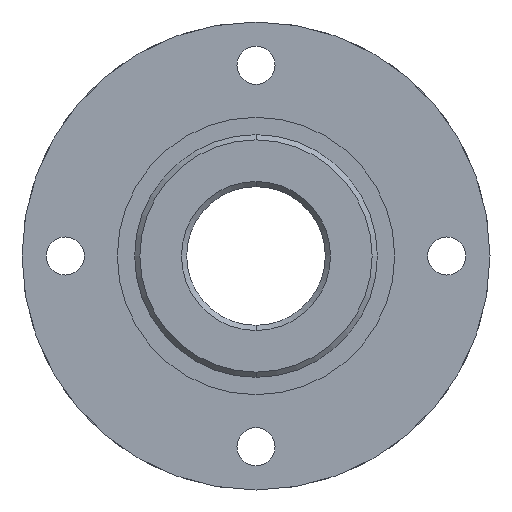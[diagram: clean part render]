
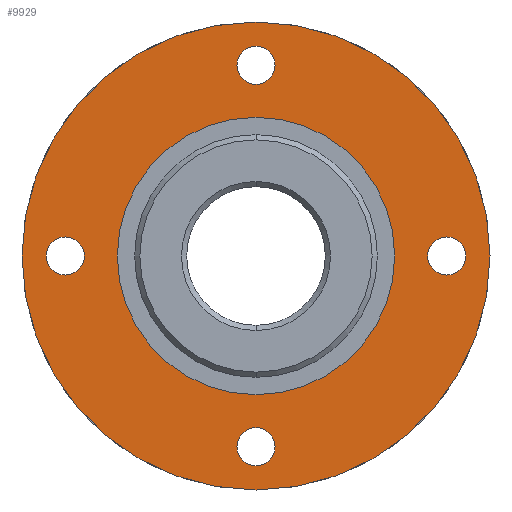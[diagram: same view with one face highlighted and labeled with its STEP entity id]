
A CAD part, front view. The second image highlights one B-rep face of the part: STEP entity #9929.
In plain terms, the highlighted planar face has unit normal (0, -1, 0).
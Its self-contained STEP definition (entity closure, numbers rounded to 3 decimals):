
#10 = ORIENTED_EDGE ( 'NONE', *, *, #7633, .T. ) ;
#106 = CARTESIAN_POINT ( 'NONE',  ( 0., 1.5, 4.5 ) ) ;
#112 = AXIS2_PLACEMENT_3D ( 'NONE', #7404, #9932, #3489 ) ;
#114 = FACE_OUTER_BOUND ( 'NONE', #4012, .T. ) ;
#155 = CIRCLE ( 'NONE', #6322, 1.1 ) ;
#180 = VERTEX_POINT ( 'NONE', #1489 ) ;
#393 = CIRCLE ( 'NONE', #4060, 1.1 ) ;
#414 = DIRECTION ( 'NONE',  ( 0., 1., 0. ) ) ;
#421 = ORIENTED_EDGE ( 'NONE', *, *, #5827, .T. ) ;
#567 = ORIENTED_EDGE ( 'NONE', *, *, #5972, .T. ) ;
#617 = DIRECTION ( 'NONE',  ( 0., 0., 1. ) ) ;
#619 = DIRECTION ( 'NONE',  ( 0., 0., 1. ) ) ;
#759 = DIRECTION ( 'NONE',  ( 0., 0., 1. ) ) ;
#860 = DIRECTION ( 'NONE',  ( 0., 1., 0. ) ) ;
#895 = ORIENTED_EDGE ( 'NONE', *, *, #4832, .T. ) ;
#1249 = VERTEX_POINT ( 'NONE', #5371 ) ;
#1348 = VERTEX_POINT ( 'NONE', #5530 ) ;
#1391 = EDGE_LOOP ( 'NONE', ( #8052, #567 ) ) ;
#1489 = CARTESIAN_POINT ( 'NONE',  ( 0., 1.5, -9.9 ) ) ;
#1531 = CIRCLE ( 'NONE', #1697, 1.1 ) ;
#1569 = AXIS2_PLACEMENT_3D ( 'NONE', #3865, #10307, #619 ) ;
#1587 = CARTESIAN_POINT ( 'NONE',  ( 0., 1.5, 0. ) ) ;
#1697 = AXIS2_PLACEMENT_3D ( 'NONE', #9999, #6260, #6693 ) ;
#1701 = VERTEX_POINT ( 'NONE', #3646 ) ;
#1895 = DIRECTION ( 'NONE',  ( 0., 1., 0. ) ) ;
#2110 = CARTESIAN_POINT ( 'NONE',  ( 0., 1.5, 13.5 ) ) ;
#2122 = EDGE_CURVE ( 'NONE', #8672, #5305, #6692, .T. ) ;
#2245 = DIRECTION ( 'NONE',  ( 0., 0., 1. ) ) ;
#2396 = CARTESIAN_POINT ( 'NONE',  ( 0., 1.5, 0. ) ) ;
#2518 = EDGE_CURVE ( 'NONE', #5377, #180, #1531, .T. ) ;
#2624 = CIRCLE ( 'NONE', #112, 1.1 ) ;
#2629 = DIRECTION ( 'NONE',  ( 0., 1., 0. ) ) ;
#2910 = CARTESIAN_POINT ( 'NONE',  ( 0., 1.5, -11. ) ) ;
#2983 = CARTESIAN_POINT ( 'NONE',  ( 0., 1.5, 0. ) ) ;
#3066 = VERTEX_POINT ( 'NONE', #9381 ) ;
#3135 = AXIS2_PLACEMENT_3D ( 'NONE', #9554, #8706, #9649 ) ;
#3362 = DIRECTION ( 'NONE',  ( 0., 0., 1. ) ) ;
#3373 = VERTEX_POINT ( 'NONE', #5942 ) ;
#3465 = EDGE_CURVE ( 'NONE', #5160, #1249, #2624, .T. ) ;
#3488 = AXIS2_PLACEMENT_3D ( 'NONE', #5375, #9469, #6890 ) ;
#3489 = DIRECTION ( 'NONE',  ( 0., 0., 1. ) ) ;
#3497 = AXIS2_PLACEMENT_3D ( 'NONE', #7327, #1895, #3362 ) ;
#3646 = CARTESIAN_POINT ( 'NONE',  ( 0., 1.5, -4.5 ) ) ;
#3862 = ORIENTED_EDGE ( 'NONE', *, *, #5811, .F. ) ;
#3865 = CARTESIAN_POINT ( 'NONE',  ( -11., 1.5, 0. ) ) ;
#3886 = DIRECTION ( 'NONE',  ( 0., 1., 0. ) ) ;
#3988 = EDGE_CURVE ( 'NONE', #1249, #5160, #7974, .T. ) ;
#4012 = EDGE_LOOP ( 'NONE', ( #3862, #7078 ) ) ;
#4060 = AXIS2_PLACEMENT_3D ( 'NONE', #2910, #7767, #617 ) ;
#4084 = CARTESIAN_POINT ( 'NONE',  ( 0., 1.5, -13.5 ) ) ;
#4171 = VERTEX_POINT ( 'NONE', #106 ) ;
#4233 = EDGE_LOOP ( 'NONE', ( #10, #9708 ) ) ;
#4262 = FACE_BOUND ( 'NONE', #9403, .T. ) ;
#4319 = EDGE_LOOP ( 'NONE', ( #6994, #5202 ) ) ;
#4402 = CIRCLE ( 'NONE', #9237, 1.1 ) ;
#4669 = AXIS2_PLACEMENT_3D ( 'NONE', #1587, #860, #10344 ) ;
#4766 = VERTEX_POINT ( 'NONE', #6671 ) ;
#4832 = EDGE_CURVE ( 'NONE', #4766, #3373, #4402, .T. ) ;
#4974 = DIRECTION ( 'NONE',  ( 0., 0., 1. ) ) ;
#4991 = AXIS2_PLACEMENT_3D ( 'NONE', #2396, #9629, #4974 ) ;
#4995 = FACE_BOUND ( 'NONE', #6474, .T. ) ;
#5056 = EDGE_CURVE ( 'NONE', #180, #5377, #393, .T. ) ;
#5160 = VERTEX_POINT ( 'NONE', #8237 ) ;
#5202 = ORIENTED_EDGE ( 'NONE', *, *, #3465, .T. ) ;
#5226 = DIRECTION ( 'NONE',  ( 0., 0., 1. ) ) ;
#5305 = VERTEX_POINT ( 'NONE', #4084 ) ;
#5327 = CIRCLE ( 'NONE', #3497, 1.1 ) ;
#5371 = CARTESIAN_POINT ( 'NONE',  ( 11., 1.5, -1.1 ) ) ;
#5375 = CARTESIAN_POINT ( 'NONE',  ( 0., 1.5, 0. ) ) ;
#5377 = VERTEX_POINT ( 'NONE', #10107 ) ;
#5491 = CIRCLE ( 'NONE', #3488, 4.5 ) ;
#5513 = EDGE_CURVE ( 'NONE', #4171, #1701, #5491, .T. ) ;
#5530 = CARTESIAN_POINT ( 'NONE',  ( -11., 1.5, 1.1 ) ) ;
#5617 = FACE_BOUND ( 'NONE', #4319, .T. ) ;
#5793 = CARTESIAN_POINT ( 'NONE',  ( 0., 1.5, 11. ) ) ;
#5811 = EDGE_CURVE ( 'NONE', #5305, #8672, #9178, .T. ) ;
#5827 = EDGE_CURVE ( 'NONE', #3373, #4766, #155, .T. ) ;
#5942 = CARTESIAN_POINT ( 'NONE',  ( 0., 1.5, 9.9 ) ) ;
#5972 = EDGE_CURVE ( 'NONE', #1348, #3066, #5327, .T. ) ;
#6260 = DIRECTION ( 'NONE',  ( 0., 1., 0. ) ) ;
#6322 = AXIS2_PLACEMENT_3D ( 'NONE', #7225, #7275, #759 ) ;
#6474 = EDGE_LOOP ( 'NONE', ( #421, #895 ) ) ;
#6541 = FACE_BOUND ( 'NONE', #1391, .T. ) ;
#6671 = CARTESIAN_POINT ( 'NONE',  ( 0., 1.5, 12.1 ) ) ;
#6692 = CIRCLE ( 'NONE', #9219, 13.5 ) ;
#6693 = DIRECTION ( 'NONE',  ( 0., 0., 1. ) ) ;
#6890 = DIRECTION ( 'NONE',  ( 0., 0., 1. ) ) ;
#6994 = ORIENTED_EDGE ( 'NONE', *, *, #3988, .T. ) ;
#7014 = ORIENTED_EDGE ( 'NONE', *, *, #5056, .T. ) ;
#7078 = ORIENTED_EDGE ( 'NONE', *, *, #2122, .F. ) ;
#7225 = CARTESIAN_POINT ( 'NONE',  ( 0., 1.5, 11. ) ) ;
#7275 = DIRECTION ( 'NONE',  ( 0., 1., 0. ) ) ;
#7325 = PLANE ( 'NONE',  #7942 ) ;
#7327 = CARTESIAN_POINT ( 'NONE',  ( -11., 1.5, 0. ) ) ;
#7385 = DIRECTION ( 'NONE',  ( 0., 0., 1. ) ) ;
#7404 = CARTESIAN_POINT ( 'NONE',  ( 11., 1.5, 0. ) ) ;
#7549 = ORIENTED_EDGE ( 'NONE', *, *, #2518, .T. ) ;
#7633 = EDGE_CURVE ( 'NONE', #1701, #4171, #8996, .T. ) ;
#7739 = EDGE_CURVE ( 'NONE', #3066, #1348, #8068, .T. ) ;
#7767 = DIRECTION ( 'NONE',  ( 0., 1., 0. ) ) ;
#7942 = AXIS2_PLACEMENT_3D ( 'NONE', #8802, #2629, #7385 ) ;
#7974 = CIRCLE ( 'NONE', #3135, 1.1 ) ;
#8052 = ORIENTED_EDGE ( 'NONE', *, *, #7739, .T. ) ;
#8068 = CIRCLE ( 'NONE', #1569, 1.1 ) ;
#8237 = CARTESIAN_POINT ( 'NONE',  ( 11., 1.5, 1.1 ) ) ;
#8672 = VERTEX_POINT ( 'NONE', #2110 ) ;
#8706 = DIRECTION ( 'NONE',  ( 0., 1., 0. ) ) ;
#8802 = CARTESIAN_POINT ( 'NONE',  ( 0., 1.5, 0. ) ) ;
#8854 = FACE_BOUND ( 'NONE', #4233, .T. ) ;
#8996 = CIRCLE ( 'NONE', #4991, 4.5 ) ;
#9178 = CIRCLE ( 'NONE', #4669, 13.5 ) ;
#9219 = AXIS2_PLACEMENT_3D ( 'NONE', #2983, #3886, #2245 ) ;
#9237 = AXIS2_PLACEMENT_3D ( 'NONE', #5793, #414, #5226 ) ;
#9381 = CARTESIAN_POINT ( 'NONE',  ( -11., 1.5, -1.1 ) ) ;
#9403 = EDGE_LOOP ( 'NONE', ( #7549, #7014 ) ) ;
#9469 = DIRECTION ( 'NONE',  ( 0., 1., 0. ) ) ;
#9554 = CARTESIAN_POINT ( 'NONE',  ( 11., 1.5, 0. ) ) ;
#9629 = DIRECTION ( 'NONE',  ( 0., 1., 0. ) ) ;
#9649 = DIRECTION ( 'NONE',  ( 0., 0., 1. ) ) ;
#9708 = ORIENTED_EDGE ( 'NONE', *, *, #5513, .T. ) ;
#9929 = ADVANCED_FACE ( 'NONE', ( #114, #8854, #5617, #4995, #6541, #4262 ), #7325, .F. ) ;
#9932 = DIRECTION ( 'NONE',  ( 0., 1., 0. ) ) ;
#9999 = CARTESIAN_POINT ( 'NONE',  ( 0., 1.5, -11. ) ) ;
#10107 = CARTESIAN_POINT ( 'NONE',  ( 0., 1.5, -12.1 ) ) ;
#10307 = DIRECTION ( 'NONE',  ( 0., 1., 0. ) ) ;
#10344 = DIRECTION ( 'NONE',  ( 0., 0., 1. ) ) ;
